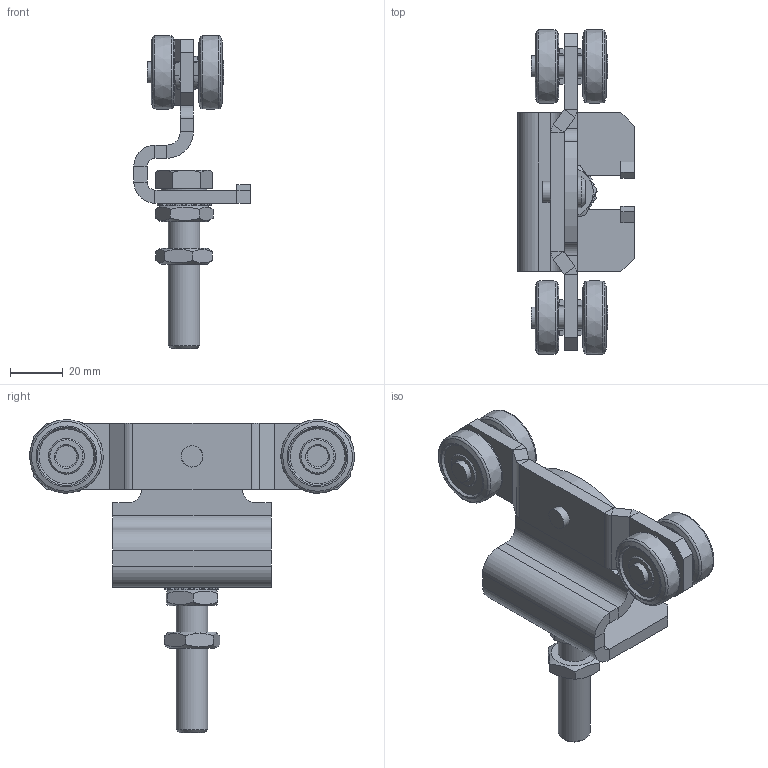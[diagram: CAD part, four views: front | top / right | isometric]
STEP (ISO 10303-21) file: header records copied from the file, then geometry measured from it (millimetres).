
FILE_DESCRIPTION(/* description */ ('Doppelrolle Nr.1 Amoniak'),/* implementation_level */ '2;1');
FILE_NAME(/* name */ 'D:\Public\STP\010336412-TP.stp',/* time_stamp */ '2020-05-13T14:32:24+02:00',/* author */ ('O. Loukota'),/* organization */ (''),/* preprocessor_version */ 'ST-DEVELOPER v17.2',/* originating_system */ 'Autodesk Inventor 2019',/* authorisation */ '');
FILE_SCHEMA (('AUTOMOTIVE_DESIGN { 1 0 10303 214 3 1 1 }'));
Length unit declared in the file: millimetre
Products named in the file (10): 010336412; 337000224; 337000120; 000302238; 336290010; 000303235; 000304011; DIN EN ISO 4017 - M12  x 60; DIN EN ISO 4035 - M12; DIN 6798 - A  13
Assembly tree (17 placements, depth 2):
  010336412
    337000224
    337000120
    000302238
    336290010  x4
    000303235  x4
    000304011  x2
    DIN EN ISO 4035 - M12  x2
    DIN EN ISO 4017 - M12  x 60
    DIN 6798 - A  13
Bounding box: 44 x 123 x 118.5 mm (x, y, z)
Volume: 74781 mm3; surface area: 37713.9 mm2
Topology: 17 solids, 17 shells, 508 faces, 1304 edges, 851 vertices
Faces by surface type: plane 295, cylinder 124, cone 51, bspline 28, torus 10
Full cylindrical faces by diameter (mm): 8 x8, 8.1 x1, 10 x2, 10.106 x2, 11.053 x1, 12 x2, 13 x1, 17.2 x1
Entity records: 10871 total; most frequent: CARTESIAN_POINT 2517, DIRECTION 1758, ORIENTED_EDGE 1634, EDGE_CURVE 817, AXIS2_PLACEMENT_3D 637, VERTEX_POINT 523, LINE 484, VECTOR 484
